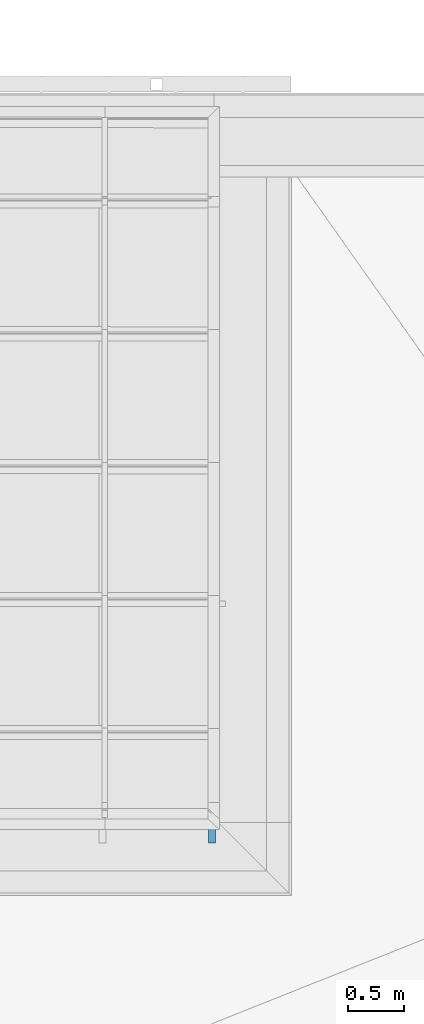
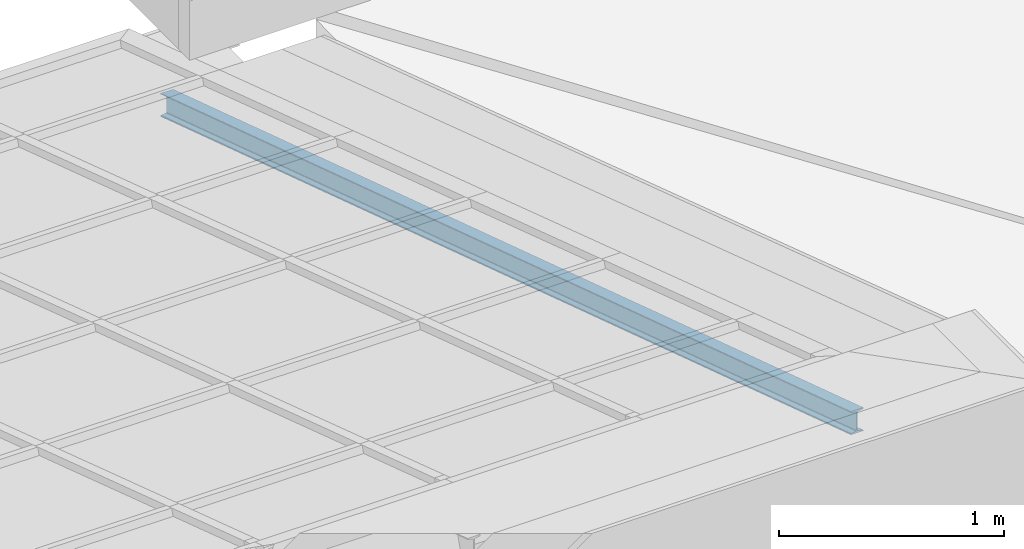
# One storey, part 13 of 47: 1 beam.
"""IFC2X3 building model written with IfcOpenShell, lengths in millimetres."""

from ifc_helpers import new_model, entity, si_unit, converted_unit, derived_unit, money_unit, point, direction, frame, frame_2d, origin_with_axes, place, context, subcontext, project, spatial, polyline, circle_curve, parameter, trimmed, segment, composite_curve, outline, extrude, clip, halfspace, material, type_object, element, save


model = new_model("IFC2X3")

# Units and contexts
model_context = context("Model", 3, precision=1e-05, world=origin_with_axes(), true_north=direction((0.0, 1.0)))
body_context = subcontext(model_context, "Body", "Model", "MODEL_VIEW")
ifc_project = project(units=[si_unit("LENGTHUNIT", "METRE", prefix="MILLI"), si_unit("AREAUNIT", "SQUARE_METRE"), si_unit("VOLUMEUNIT", "CUBIC_METRE"), converted_unit("PLANEANGLEUNIT", "DEGREE", entity("IfcPlaneAngleMeasure", 0.0174532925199), si_unit("PLANEANGLEUNIT", "RADIAN"), dimensions=[0, 0, 0, 0, 0, 0, 0]), si_unit("SOLIDANGLEUNIT", "STERADIAN"), money_unit("EUR"), converted_unit("TIMEUNIT", "Year", entity("IfcTimeMeasure", 31556926.0), si_unit("TIMEUNIT", "SECOND"), dimensions=[0, 0, 1, 0, 0, 0, 0]), si_unit("MASSUNIT", "GRAM", prefix="KILO"), si_unit("THERMODYNAMICTEMPERATUREUNIT", "DEGREE_CELSIUS"), si_unit("LUMINOUSINTENSITYUNIT", "LUMEN"), si_unit("ENERGYUNIT", "JOULE", prefix="MEGA"), derived_unit("THERMALCONDUCTANCEUNIT", [(si_unit("POWERUNIT", "WATT"), 1), (si_unit("LENGTHUNIT", "METRE"), -1), (si_unit("THERMODYNAMICTEMPERATUREUNIT", "KELVIN"), -1)]), derived_unit("SPECIFICHEATCAPACITYUNIT", [(si_unit("ENERGYUNIT", "JOULE"), 1), (si_unit("MASSUNIT", "GRAM", prefix="KILO"), -1), (si_unit("THERMODYNAMICTEMPERATUREUNIT", "KELVIN"), -1)]), derived_unit("MASSDENSITYUNIT", [(si_unit("MASSUNIT", "GRAM", prefix="KILO"), 1), (si_unit("VOLUMEUNIT", "CUBIC_METRE"), -1)])], contexts=[model_context])

# Site, building, storey
site_placement = place(None, origin_with_axes())
site = spatial("IfcSite", under=ifc_project, at=site_placement, Name="Site", CompositionType="ELEMENT")
building_placement = place(site_placement, origin_with_axes())
building = spatial("IfcBuilding", under=site, at=building_placement, Name="Building", CompositionType="ELEMENT")
storey_placement = place(building_placement, frame((0.0, 0.0, 6000.0), z_axis=(0.0, 0.0, 1.0), x_axis=(1.0, 0.0, 0.0)))
storey = spatial("IfcBuildingStorey", under=building, at=storey_placement, Name="KATUSEPLAAN", CompositionType="ELEMENT", Elevation=6000.0)

# Beam
ifc_material = material(Name="Teras (1)")
beam_type = type_object("IfcBeamType", Name="IPE 120", PredefinedType="NOTDEFINED")
beam_placement = place(storey_placement, frame((87813.081763, 46947.8063411, 711.763952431), z_axis=(0.0, 0.0, 1.0), x_axis=(-1.0, 0.0, 0.0)))
element("IfcBeam", 1, at=beam_placement, inside=storey, type_object=beam_type, material=ifc_material, Name="I Joist - Steel", ObjectType="I Joist - Steel 64 x 120", context=body_context, shape_type="Clipping", body=[
    clip(clip(extrude(outline(composite_curve([segment(polyline([(32.0018479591, -120.000212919), (32.0018479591, -117.505222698)]), True, "CONTINUOUS"), segment(trimmed(circle_curve(frame_2d((27.3321376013, -117.498683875), x_axis=(0.999999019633, -0.00140026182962)), 4.66971493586), [point((32.0018479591, -117.505222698)), parameter(0.0)], [point((31.7461003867, -115.974488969)), parameter(19.1306436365)], True, "CARTESIAN"), True, "CONTINUOUS"), segment(trimmed(circle_curve(frame_2d((27.8471066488, -117.309508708), x_axis=(0.94607823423, 0.323938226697)), 4.12121703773), [point((31.7461003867, -115.974488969)), parameter(0.0)], [point((31.017792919, -114.676795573)), parameter(20.802576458)], True, "CARTESIAN"), True, "CONTINUOUS"), segment(trimmed(circle_curve(frame_2d((28.4090653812, -116.837495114), x_axis=(0.770140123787, 0.637874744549)), 3.38734141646), [point((31.017792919, -114.676795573)), parameter(0.0)], [point((29.9278037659, -113.809704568)), parameter(23.7281511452)], True, "CARTESIAN"), True, "CONTINUOUS"), segment(trimmed(circle_curve(frame_2d((28.6333599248, -116.404648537), x_axis=(0.446378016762, 0.89484449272)), 2.89988259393), [point((29.9278037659, -113.809704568)), parameter(0.0)], [point((29.1110817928, -113.544386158)), parameter(17.0295027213)], True, "CARTESIAN"), True, "CONTINUOUS"), segment(polyline([(29.1110817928, -113.544386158), (5.24260801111, -109.566039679)]), True, "CONTINUOUS"), segment(trimmed(circle_curve(frame_2d((5.72032987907, -106.7057773), x_axis=(-0.446378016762, -0.89484449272)), 2.89988259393), [point((5.24260801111, -109.566039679)), parameter(17.0295027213)], [point((4.42588603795, -109.300721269)), parameter(0.0)], False, "CARTESIAN"), True, "CONTINUOUS"), segment(trimmed(circle_curve(frame_2d((5.94462442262, -106.272930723), x_axis=(-0.770140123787, -0.637874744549)), 3.38734141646), [point((4.42588603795, -109.300721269)), parameter(23.7281511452)], [point((3.33589688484, -108.433630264)), parameter(0.0)], False, "CARTESIAN"), True, "CONTINUOUS"), segment(trimmed(circle_curve(frame_2d((6.5065831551, -105.800917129), x_axis=(-0.94607823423, -0.323938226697)), 4.12121703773), [point((3.33589688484, -108.433630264)), parameter(20.802576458)], [point((2.60758941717, -107.135936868)), parameter(0.0)], False, "CARTESIAN"), True, "CONTINUOUS"), segment(trimmed(circle_curve(frame_2d((7.02155220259, -105.611741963), x_axis=(-0.999999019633, 0.00140026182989)), 4.66971493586), [point((2.60758941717, -107.135936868)), parameter(19.1306436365)], [point((2.35184184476, -105.605203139)), parameter(0.0)], False, "CARTESIAN"), True, "CONTINUOUS"), segment(polyline([(2.35184184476, -105.605203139), (2.35184184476, -14.3950097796)]), True, "CONTINUOUS"), segment(trimmed(circle_curve(frame_2d((7.02155220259, -14.3884709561), x_axis=(-0.945231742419, 0.326399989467)), 4.66971493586), [point((2.35184184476, -14.3950097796)), parameter(19.1306436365)], [point((2.60758941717, -12.8642760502)), parameter(0.0)], False, "CARTESIAN"), True, "CONTINUOUS"), segment(trimmed(circle_curve(frame_2d((6.5065831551, -14.1992957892), x_axis=(-0.769356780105, 0.638819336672)), 4.12121703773), [point((2.60758941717, -12.8642760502)), parameter(20.802576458)], [point((3.33589688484, -11.5665826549)), parameter(0.0)], False, "CARTESIAN"), True, "CONTINUOUS"), segment(trimmed(circle_curve(frame_2d((5.94462442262, -13.7272821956), x_axis=(-0.44835704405, 0.893854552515)), 3.38734141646), [point((3.33589688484, -11.5665826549)), parameter(23.7281511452)], [point((4.42588603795, -10.6994916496)), parameter(0.0)], False, "CARTESIAN"), True, "CONTINUOUS"), segment(trimmed(circle_curve(frame_2d((5.72032987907, -13.2944356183), x_axis=(-0.164738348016, 0.986337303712)), 2.89988259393), [point((4.42588603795, -10.6994916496)), parameter(17.0295027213)], [point((5.24260801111, -10.4341732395)), parameter(0.0)], False, "CARTESIAN"), True, "CONTINUOUS"), segment(polyline([(5.24260801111, -10.4341732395), (29.1110817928, -6.45582676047)]), True, "CONTINUOUS"), segment(trimmed(circle_curve(frame_2d((28.6333599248, -3.59556438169), x_axis=(0.164738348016, -0.986337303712)), 2.89988259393), [point((29.1110817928, -6.45582676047)), parameter(0.0)], [point((29.9278037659, -6.19050835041)), parameter(17.0295027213)], True, "CARTESIAN"), True, "CONTINUOUS"), segment(trimmed(circle_curve(frame_2d((28.4090653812, -3.16271780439), x_axis=(0.44835704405, -0.893854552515)), 3.38734141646), [point((29.9278037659, -6.19050835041)), parameter(0.0)], [point((31.017792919, -5.32341734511)), parameter(23.7281511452)], True, "CARTESIAN"), True, "CONTINUOUS"), segment(trimmed(circle_curve(frame_2d((27.8471066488, -2.69070421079), x_axis=(0.769356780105, -0.638819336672)), 4.12121703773), [point((31.017792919, -5.32341734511)), parameter(0.0)], [point((31.7461003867, -4.02572394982)), parameter(20.802576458)], True, "CARTESIAN"), True, "CONTINUOUS"), segment(trimmed(circle_curve(frame_2d((27.3321376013, -2.50152904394), x_axis=(0.945231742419, -0.326399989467)), 4.66971493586), [point((31.7461003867, -4.02572394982)), parameter(0.0)], [point((32.0018479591, -2.49499022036)), parameter(19.1306436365)], True, "CARTESIAN"), True, "CONTINUOUS"), segment(polyline([(32.0018479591, -2.49499022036), (32.0018479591, 0.0), (-32.0018479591, 0.0), (-32.0018479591, -2.49499022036)]), True, "CONTINUOUS"), segment(trimmed(circle_curve(frame_2d((-27.3321376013, -2.50152904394), x_axis=(-0.999999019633, 0.00140026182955)), 4.66971493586), [point((-32.0018479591, -2.49499022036)), parameter(0.0)], [point((-31.7461003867, -4.02572394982)), parameter(19.1306436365)], True, "CARTESIAN"), True, "CONTINUOUS"), segment(trimmed(circle_curve(frame_2d((-27.8471066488, -2.69070421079), x_axis=(-0.94607823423, -0.323938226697)), 4.12121703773), [point((-31.7461003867, -4.02572394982)), parameter(0.0)], [point((-31.017792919, -5.32341734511)), parameter(20.802576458)], True, "CARTESIAN"), True, "CONTINUOUS"), segment(trimmed(circle_curve(frame_2d((-28.4090653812, -3.16271780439), x_axis=(-0.770140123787, -0.637874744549)), 3.38734141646), [point((-31.017792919, -5.32341734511)), parameter(0.0)], [point((-29.9278037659, -6.19050835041)), parameter(23.7281511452)], True, "CARTESIAN"), True, "CONTINUOUS"), segment(trimmed(circle_curve(frame_2d((-28.6333599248, -3.59556438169), x_axis=(-0.446378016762, -0.89484449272)), 2.89988259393), [point((-29.9278037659, -6.19050835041)), parameter(0.0)], [point((-29.1110817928, -6.45582676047)), parameter(17.0295027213)], True, "CARTESIAN"), True, "CONTINUOUS"), segment(polyline([(-29.1110817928, -6.45582676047), (-5.24260801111, -10.4341732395)]), True, "CONTINUOUS"), segment(trimmed(circle_curve(frame_2d((-5.72032987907, -13.2944356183), x_axis=(0.446378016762, 0.89484449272)), 2.89988259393), [point((-5.24260801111, -10.4341732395)), parameter(17.0295027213)], [point((-4.42588603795, -10.6994916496)), parameter(0.0)], False, "CARTESIAN"), True, "CONTINUOUS"), segment(trimmed(circle_curve(frame_2d((-5.94462442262, -13.7272821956), x_axis=(0.770140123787, 0.637874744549)), 3.38734141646), [point((-4.42588603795, -10.6994916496)), parameter(23.7281511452)], [point((-3.33589688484, -11.5665826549)), parameter(0.0)], False, "CARTESIAN"), True, "CONTINUOUS"), segment(trimmed(circle_curve(frame_2d((-6.5065831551, -14.1992957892), x_axis=(0.94607823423, 0.323938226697)), 4.12121703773), [point((-3.33589688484, -11.5665826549)), parameter(20.802576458)], [point((-2.60758941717, -12.8642760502)), parameter(0.0)], False, "CARTESIAN"), True, "CONTINUOUS"), segment(trimmed(circle_curve(frame_2d((-7.02155220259, -14.3884709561), x_axis=(0.999999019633, -0.00140026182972)), 4.66971493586), [point((-2.60758941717, -12.8642760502)), parameter(19.1306436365)], [point((-2.35184184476, -14.3950097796)), parameter(0.0)], False, "CARTESIAN"), True, "CONTINUOUS"), segment(polyline([(-2.35184184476, -14.3950097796), (-2.35184184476, -105.605203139)]), True, "CONTINUOUS"), segment(trimmed(circle_curve(frame_2d((-7.02155220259, -105.611741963), x_axis=(0.945231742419, -0.326399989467)), 4.66971493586), [point((-2.35184184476, -105.605203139)), parameter(19.1306436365)], [point((-2.60758941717, -107.135936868)), parameter(0.0)], False, "CARTESIAN"), True, "CONTINUOUS"), segment(trimmed(circle_curve(frame_2d((-6.5065831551, -105.800917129), x_axis=(0.769356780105, -0.638819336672)), 4.12121703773), [point((-2.60758941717, -107.135936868)), parameter(20.802576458)], [point((-3.33589688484, -108.433630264)), parameter(0.0)], False, "CARTESIAN"), True, "CONTINUOUS"), segment(trimmed(circle_curve(frame_2d((-5.94462442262, -106.272930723), x_axis=(0.44835704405, -0.893854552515)), 3.38734141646), [point((-3.33589688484, -108.433630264)), parameter(23.7281511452)], [point((-4.42588603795, -109.300721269)), parameter(0.0)], False, "CARTESIAN"), True, "CONTINUOUS"), segment(trimmed(circle_curve(frame_2d((-5.72032987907, -106.7057773), x_axis=(0.164738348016, -0.986337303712)), 2.89988259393), [point((-4.42588603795, -109.300721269)), parameter(17.0295027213)], [point((-5.24260801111, -109.566039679)), parameter(0.0)], False, "CARTESIAN"), True, "CONTINUOUS"), segment(polyline([(-5.24260801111, -109.566039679), (-29.1110817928, -113.544386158)]), True, "CONTINUOUS"), segment(trimmed(circle_curve(frame_2d((-28.6333599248, -116.404648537), x_axis=(-0.164738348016, 0.986337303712)), 2.89988259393), [point((-29.1110817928, -113.544386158)), parameter(0.0)], [point((-29.9278037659, -113.809704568)), parameter(17.0295027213)], True, "CARTESIAN"), True, "CONTINUOUS"), segment(trimmed(circle_curve(frame_2d((-28.4090653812, -116.837495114), x_axis=(-0.44835704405, 0.893854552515)), 3.38734141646), [point((-29.9278037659, -113.809704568)), parameter(0.0)], [point((-31.017792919, -114.676795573)), parameter(23.7281511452)], True, "CARTESIAN"), True, "CONTINUOUS"), segment(trimmed(circle_curve(frame_2d((-27.8471066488, -117.309508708), x_axis=(-0.769356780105, 0.638819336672)), 4.12121703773), [point((-31.017792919, -114.676795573)), parameter(0.0)], [point((-31.7461003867, -115.974488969)), parameter(20.802576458)], True, "CARTESIAN"), True, "CONTINUOUS"), segment(trimmed(circle_curve(frame_2d((-27.3321376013, -117.498683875), x_axis=(-0.945231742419, 0.326399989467)), 4.66971493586), [point((-31.7461003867, -115.974488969)), parameter(0.0)], [point((-32.0018479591, -117.505222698)), parameter(19.1306436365)], True, "CARTESIAN"), True, "CONTINUOUS"), segment(polyline([(-32.0018479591, -117.505222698), (-32.0018479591, -120.000212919), (32.0018479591, -120.000212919)]), True, "CONTINUOUS")], self_intersect=False)), frame((0.0, 6177.44201598, 2007.17258333), z_axis=(0.0, 0.951056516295, 0.309016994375), x_axis=(-1.0, 0.0, 0.0)), (0.0, 0.0, -1.0), 6550.487721), halfspace(frame((0.0, 6125.0, 0.0), z_axis=(0.0, -1.0, 0.0), x_axis=(0.0, 0.0, -1.0)), True)), halfspace(frame((0.0, 0.0, 0.0), z_axis=(0.0, 1.0, 0.0), x_axis=(0.0, 0.0, 1.0)), True)),
])

save(model, "model.ifc")
